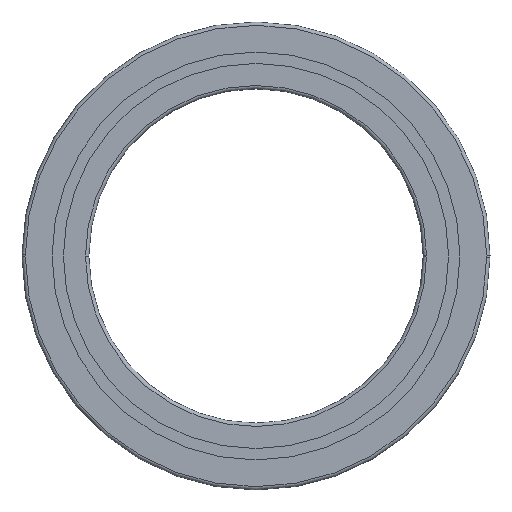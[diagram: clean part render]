
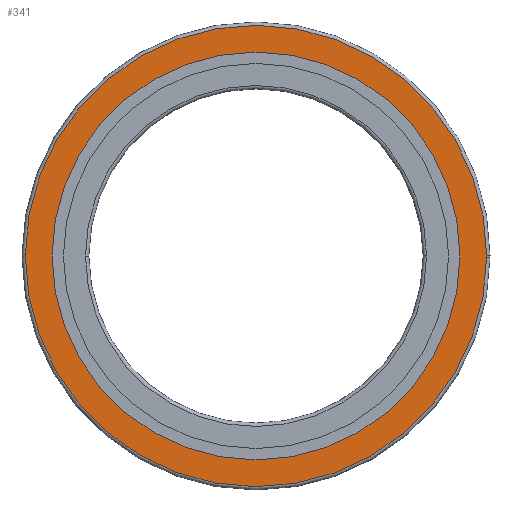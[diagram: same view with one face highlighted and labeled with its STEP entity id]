
A CAD part, front view. The second image highlights one B-rep face of the part: STEP entity #341.
In plain terms, the highlighted planar face has unit normal (0, -1, 0).
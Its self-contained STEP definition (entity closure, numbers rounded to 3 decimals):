
#321=EDGE_CURVE('',#371,#515,#860,.T.);
#341=ADVANCED_FACE('',(#882,#883),#884,.F.);
#371=VERTEX_POINT('',#915);
#429=EDGE_CURVE('',#515,#811,#985,.T.);
#433=VERTEX_POINT('',#989);
#515=VERTEX_POINT('',#1083);
#525=EDGE_CURVE('',#667,#575,#1093,.T.);
#575=VERTEX_POINT('',#1145);
#627=EDGE_CURVE('',#433,#371,#1203,.T.);
#667=VERTEX_POINT('',#1249);
#703=EDGE_CURVE('',#575,#667,#1288,.T.);
#785=EDGE_CURVE('',#811,#433,#1382,.T.);
#811=VERTEX_POINT('',#1412);
#860=CIRCLE('',#1462,138.0);
#882=FACE_OUTER_BOUND('',#1487,.T.);
#883=FACE_BOUND('',#1488,.T.);
#884=PLANE('',#1489);
#915=CARTESIAN_POINT('',(-138.0,0.0,0.));
#985=CIRCLE('',#1612,138.0);
#989=CARTESIAN_POINT('',(-137.997,0.0,0.853));
#1083=CARTESIAN_POINT('',(137.997,0.0,-0.853));
#1093=CIRCLE('',#1751,122.0);
#1145=CARTESIAN_POINT('',(122.0,0.0,0.));
#1203=CIRCLE('',#1893,138.0);
#1249=CARTESIAN_POINT('',(-122.0,0.0,0.0));
#1288=CIRCLE('',#1999,122.0);
#1382=CIRCLE('',#2111,138.0);
#1412=CARTESIAN_POINT('',(138.0,0.0,0.0));
#1462=AXIS2_PLACEMENT_3D('',#2175,#2176,#2177);
#1487=EDGE_LOOP('',(#2199,#2200,#2201,#2202));
#1488=EDGE_LOOP('',(#2203,#2204));
#1489=AXIS2_PLACEMENT_3D('',#2205,#2206,#2207);
#1612=AXIS2_PLACEMENT_3D('',#2352,#2353,#2354);
#1751=AXIS2_PLACEMENT_3D('',#2510,#2511,#2512);
#1893=AXIS2_PLACEMENT_3D('',#2649,#2650,#2651);
#1999=AXIS2_PLACEMENT_3D('',#2756,#2757,#2758);
#2111=AXIS2_PLACEMENT_3D('',#2880,#2881,#2882);
#2175=CARTESIAN_POINT('',(0.0,0.0,0.0));
#2176=DIRECTION('',(0.0,-1.0,0.0));
#2177=DIRECTION('',(-1.0,0.0,0.0));
#2199=ORIENTED_EDGE('',*,*,#321,.T.);
#2200=ORIENTED_EDGE('',*,*,#429,.T.);
#2201=ORIENTED_EDGE('',*,*,#785,.T.);
#2202=ORIENTED_EDGE('',*,*,#627,.T.);
#2203=ORIENTED_EDGE('',*,*,#525,.F.);
#2204=ORIENTED_EDGE('',*,*,#703,.F.);
#2205=CARTESIAN_POINT('',(0.0,0.0,0.0));
#2206=DIRECTION('',(0.0,1.0,0.0));
#2207=DIRECTION('',(1.0,0.0,-0.0));
#2352=CARTESIAN_POINT('',(0.0,0.0,0.0));
#2353=DIRECTION('',(0.0,-1.0,0.0));
#2354=DIRECTION('',(-1.0,0.0,0.0));
#2510=CARTESIAN_POINT('',(0.0,0.0,0.0));
#2511=DIRECTION('',(0.0,-1.0,0.0));
#2512=DIRECTION('',(-1.0,0.0,0.0));
#2649=CARTESIAN_POINT('',(0.0,0.0,0.0));
#2650=DIRECTION('',(0.0,-1.0,0.0));
#2651=DIRECTION('',(1.0,0.0,0.0));
#2756=CARTESIAN_POINT('',(0.0,0.0,0.0));
#2757=DIRECTION('',(0.0,-1.0,0.0));
#2758=DIRECTION('',(1.0,0.0,0.0));
#2880=CARTESIAN_POINT('',(0.0,0.0,0.0));
#2881=DIRECTION('',(0.0,-1.0,0.0));
#2882=DIRECTION('',(1.0,0.0,0.0));
